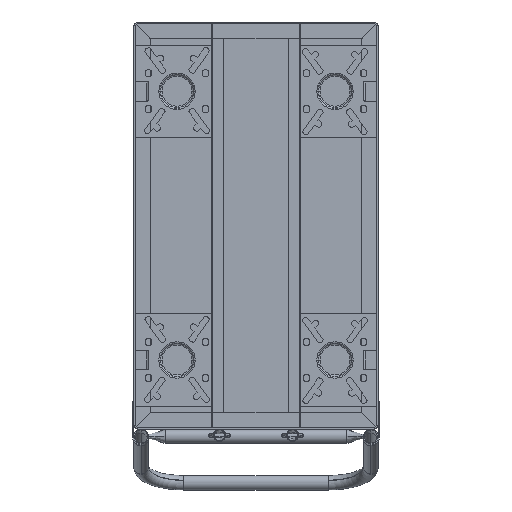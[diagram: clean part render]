
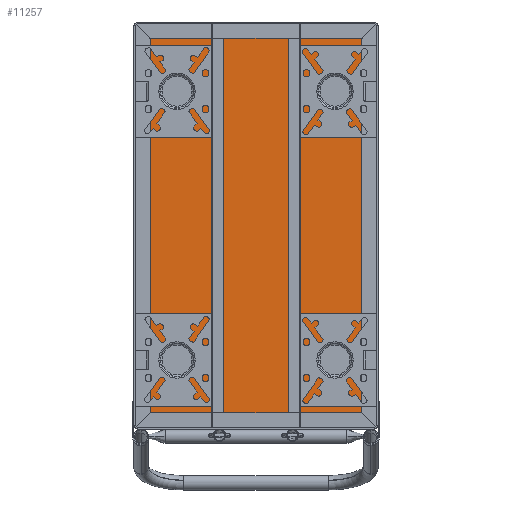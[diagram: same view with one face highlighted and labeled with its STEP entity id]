
A CAD part, front view. The second image highlights one B-rep face of the part: STEP entity #11257.
In plain terms, the highlighted planar face has unit normal (0, -1, 0).
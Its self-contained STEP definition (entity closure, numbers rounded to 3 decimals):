
#130 = LINE ( 'NONE', #27867, #19849 ) ;
#1200 = LINE ( 'NONE', #19402, #29241 ) ;
#1967 = CIRCLE ( 'NONE', #30786, 8. ) ;
#1985 = DIRECTION ( 'NONE',  ( 0., 0., 1. ) ) ;
#2001 = EDGE_CURVE ( 'NONE', #8056, #32426, #130, .T. ) ;
#2176 = ORIENTED_EDGE ( 'NONE', *, *, #2001, .F. ) ;
#2585 = AXIS2_PLACEMENT_3D ( 'NONE', #22307, #19464, #24817 ) ;
#4419 = CARTESIAN_POINT ( 'NONE',  ( -375., 0., 217. ) ) ;
#4427 = FACE_OUTER_BOUND ( 'NONE', #27489, .T. ) ;
#5303 = VERTEX_POINT ( 'NONE', #20284 ) ;
#5461 = CARTESIAN_POINT ( 'NONE',  ( -375., 0., 225. ) ) ;
#5880 = CARTESIAN_POINT ( 'NONE',  ( 367., 0., 217. ) ) ;
#5886 = ORIENTED_EDGE ( 'NONE', *, *, #14159, .T. ) ;
#6351 = CIRCLE ( 'NONE', #24506, 8. ) ;
#6468 = CARTESIAN_POINT ( 'NONE',  ( -367., 0., 217. ) ) ;
#6633 = DIRECTION ( 'NONE',  ( 0., 0., 1. ) ) ;
#8056 = VERTEX_POINT ( 'NONE', #24025 ) ;
#8175 = ORIENTED_EDGE ( 'NONE', *, *, #18271, .F. ) ;
#8538 = CARTESIAN_POINT ( 'NONE',  ( 367., 0., 225. ) ) ;
#8564 = ORIENTED_EDGE ( 'NONE', *, *, #9854, .T. ) ;
#9117 = DIRECTION ( 'NONE',  ( 0., 0., 1. ) ) ;
#9419 = VERTEX_POINT ( 'NONE', #16376 ) ;
#9767 = DIRECTION ( 'NONE',  ( 0., -1., 0. ) ) ;
#9854 = EDGE_CURVE ( 'NONE', #8056, #31599, #6351, .T. ) ;
#10001 = DIRECTION ( 'NONE',  ( 0., -1., 0. ) ) ;
#11053 = ORIENTED_EDGE ( 'NONE', *, *, #32558, .T. ) ;
#11257 = ADVANCED_FACE ( 'NONE', ( #4427 ), #21813, .F. ) ;
#11310 = CARTESIAN_POINT ( 'NONE',  ( -367., 0., -225. ) ) ;
#11473 = DIRECTION ( 'NONE',  ( 0., -1., 0. ) ) ;
#11515 = EDGE_CURVE ( 'NONE', #27465, #32426, #23428, .T. ) ;
#11744 = LINE ( 'NONE', #27112, #31293 ) ;
#13568 = ORIENTED_EDGE ( 'NONE', *, *, #11515, .T. ) ;
#14159 = EDGE_CURVE ( 'NONE', #5303, #20787, #1967, .T. ) ;
#14402 = CARTESIAN_POINT ( 'NONE',  ( 375., 0., -217. ) ) ;
#14726 = DIRECTION ( 'NONE',  ( 0., 0., 1. ) ) ;
#14776 = CARTESIAN_POINT ( 'NONE',  ( -367., 0., -217. ) ) ;
#16376 = CARTESIAN_POINT ( 'NONE',  ( -367., 0., 225. ) ) ;
#16758 = VERTEX_POINT ( 'NONE', #4419 ) ;
#18271 = EDGE_CURVE ( 'NONE', #27465, #16758, #11744, .T. ) ;
#19402 = CARTESIAN_POINT ( 'NONE',  ( 375., 0., -225. ) ) ;
#19464 = DIRECTION ( 'NONE',  ( 0., 1., 0. ) ) ;
#19849 = VECTOR ( 'NONE', #25359, 1000. ) ;
#20073 = CIRCLE ( 'NONE', #25427, 8. ) ;
#20284 = CARTESIAN_POINT ( 'NONE',  ( 375., 0., 217. ) ) ;
#20787 = VERTEX_POINT ( 'NONE', #8538 ) ;
#20901 = DIRECTION ( 'NONE',  ( 0., -1., 0. ) ) ;
#21140 = EDGE_CURVE ( 'NONE', #9419, #20787, #32855, .T. ) ;
#21813 = PLANE ( 'NONE',  #2585 ) ;
#22307 = CARTESIAN_POINT ( 'NONE',  ( 0., 0., 0. ) ) ;
#23136 = EDGE_CURVE ( 'NONE', #5303, #31599, #1200, .T. ) ;
#23273 = ORIENTED_EDGE ( 'NONE', *, *, #21140, .F. ) ;
#23428 = CIRCLE ( 'NONE', #30348, 8. ) ;
#24025 = CARTESIAN_POINT ( 'NONE',  ( 367., 0., -225. ) ) ;
#24506 = AXIS2_PLACEMENT_3D ( 'NONE', #27727, #10001, #1985 ) ;
#24817 = DIRECTION ( 'NONE',  ( 0., 0., 1. ) ) ;
#25359 = DIRECTION ( 'NONE',  ( -1., 0., 0. ) ) ;
#25427 = AXIS2_PLACEMENT_3D ( 'NONE', #6468, #11473, #6633 ) ;
#25442 = ORIENTED_EDGE ( 'NONE', *, *, #23136, .F. ) ;
#25842 = DIRECTION ( 'NONE',  ( 1., 0., 0. ) ) ;
#26093 = DIRECTION ( 'NONE',  ( 0., 0., 1. ) ) ;
#26768 = DIRECTION ( 'NONE',  ( 0., 0., -1. ) ) ;
#27103 = VECTOR ( 'NONE', #25842, 1000. ) ;
#27112 = CARTESIAN_POINT ( 'NONE',  ( -375., 0., -225. ) ) ;
#27465 = VERTEX_POINT ( 'NONE', #28665 ) ;
#27489 = EDGE_LOOP ( 'NONE', ( #23273, #11053, #8175, #13568, #2176, #8564, #25442, #5886 ) ) ;
#27727 = CARTESIAN_POINT ( 'NONE',  ( 367., 0., -217. ) ) ;
#27867 = CARTESIAN_POINT ( 'NONE',  ( -375., 0., -225. ) ) ;
#28665 = CARTESIAN_POINT ( 'NONE',  ( -375., 0., -217. ) ) ;
#29241 = VECTOR ( 'NONE', #26768, 1000. ) ;
#30348 = AXIS2_PLACEMENT_3D ( 'NONE', #14776, #9767, #9117 ) ;
#30786 = AXIS2_PLACEMENT_3D ( 'NONE', #5880, #20901, #26093 ) ;
#31293 = VECTOR ( 'NONE', #14726, 1000. ) ;
#31599 = VERTEX_POINT ( 'NONE', #14402 ) ;
#32426 = VERTEX_POINT ( 'NONE', #11310 ) ;
#32558 = EDGE_CURVE ( 'NONE', #9419, #16758, #20073, .T. ) ;
#32855 = LINE ( 'NONE', #5461, #27103 ) ;
